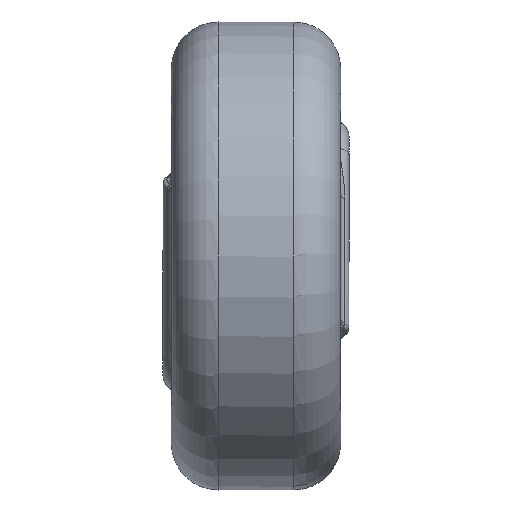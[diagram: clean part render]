
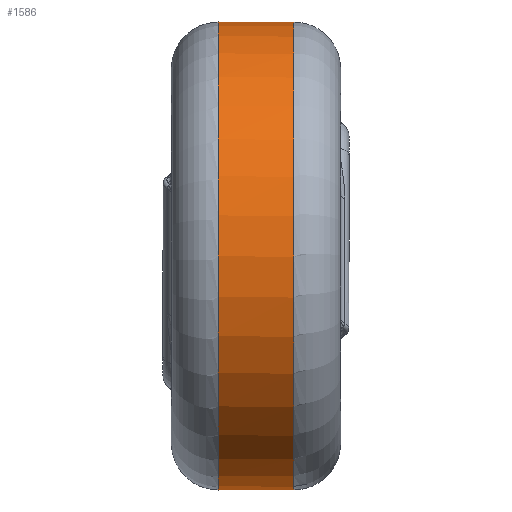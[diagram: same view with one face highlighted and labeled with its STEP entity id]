
A CAD part, left-side view. The second image highlights one B-rep face of the part: STEP entity #1586.
In plain terms, the highlighted cylindrical face has radius 12.45 mm (diameter 24.9 mm), a full revolution.
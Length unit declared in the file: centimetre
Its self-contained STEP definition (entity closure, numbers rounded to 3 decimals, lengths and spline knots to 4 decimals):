
#1032=CARTESIAN_POINT('',(1.245,0.57,0.));
#1033=VERTEX_POINT('',#1032);
#1034=CARTESIAN_POINT('',(0.0,0.57,0.0));
#1035=DIRECTION('',(0.0,1.0,0.0));
#1036=DIRECTION('',(-1.0,0.0,0.0));
#1037=AXIS2_PLACEMENT_3D('',#1034,#1035,#1036);
#1038=CIRCLE('',#1037,1.245);
#1039=EDGE_CURVE('',#1033,#1033,#1038,.T.);
#1454=CARTESIAN_POINT('',(1.245,0.169,0.));
#1455=VERTEX_POINT('',#1454);
#1456=CARTESIAN_POINT('',(0.0,0.169,0.0));
#1457=DIRECTION('',(0.0,-1.0,0.0));
#1458=DIRECTION('',(-1.0,0.0,0.0));
#1459=AXIS2_PLACEMENT_3D('',#1456,#1457,#1458);
#1460=CIRCLE('',#1459,1.245);
#1461=EDGE_CURVE('',#1455,#1455,#1460,.T.);
#1575=CARTESIAN_POINT('',(0.0,0.3695,0.0));
#1576=DIRECTION('',(0.0,1.0,0.0));
#1577=DIRECTION('',(-1.0,0.0,0.0));
#1578=AXIS2_PLACEMENT_3D('',#1575,#1576,#1577);
#1579=CYLINDRICAL_SURFACE('',#1578,1.245);
#1580=ORIENTED_EDGE('',*,*,#1039,.F.);
#1581=EDGE_LOOP('',(#1580));
#1582=FACE_OUTER_BOUND('',#1581,.T.);
#1583=ORIENTED_EDGE('',*,*,#1461,.F.);
#1584=EDGE_LOOP('',(#1583));
#1585=FACE_BOUND('',#1584,.T.);
#1586=ADVANCED_FACE('',(#1582,#1585),#1579,.T.);
